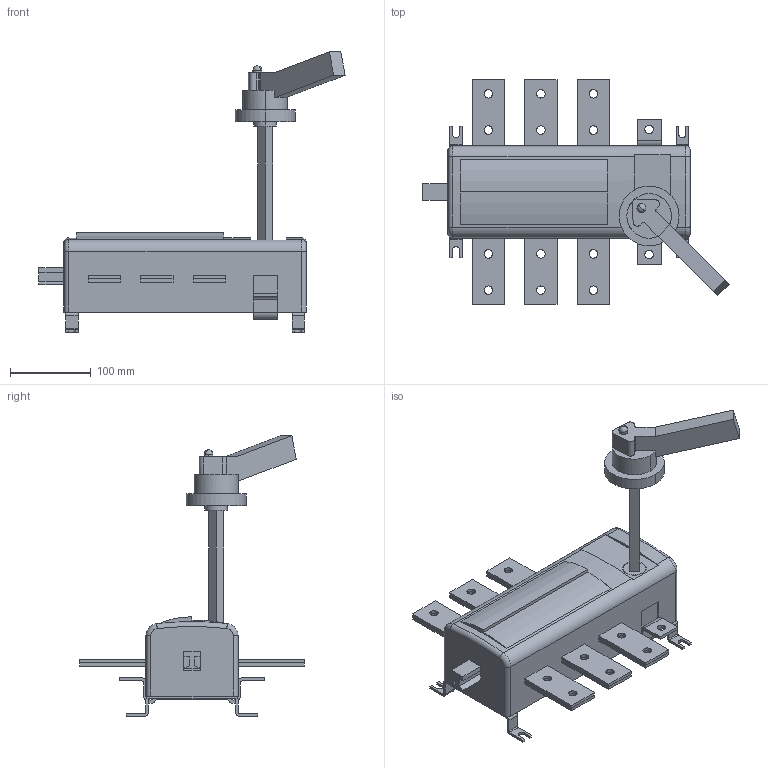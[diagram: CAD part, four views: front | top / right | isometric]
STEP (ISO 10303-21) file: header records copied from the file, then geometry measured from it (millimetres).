
FILE_DESCRIPTION (( 'STEP AP214' ), '1' );
FILE_NAME ('Âûêëþ÷àòåëü íàãðóçêè ÂÍÊ-39-31130N-630À-IP32-ÓÕË3-ÊÝÀÇ.STEP', '2023-04-19T11:47:10', ( '' ), ( '' ), 'SwSTEP 2.0', 'SolidWorks 2018', '' );
FILE_SCHEMA (( 'AUTOMOTIVE_DESIGN' ));
Length unit declared in the file: millimetre
Products named in the file (1): Âûêëþ÷àòåëü íàãðóçêè ÂÍÊ-39-31130N-630À-IP32-ÓÕË3-ÊÝÀÇ
Bounding box: 379 x 278 x 346.99 mm (x, y, z)
Volume: 3539402.9 mm3; surface area: 292622.6 mm2
Topology: 10 solids, 10 shells, 317 faces, 835 edges, 552 vertices
Faces by surface type: plane 188, cylinder 117, torus 6, cone 4, sphere 2
Entity records: 13514 total; most frequent: DIRECTION 1733, CARTESIAN_POINT 1708, ORIENTED_EDGE 1662, EDGE_CURVE 831, AXIS2_PLACEMENT_3D 587, VECTOR 559, LINE 559, VERTEX_POINT 550
